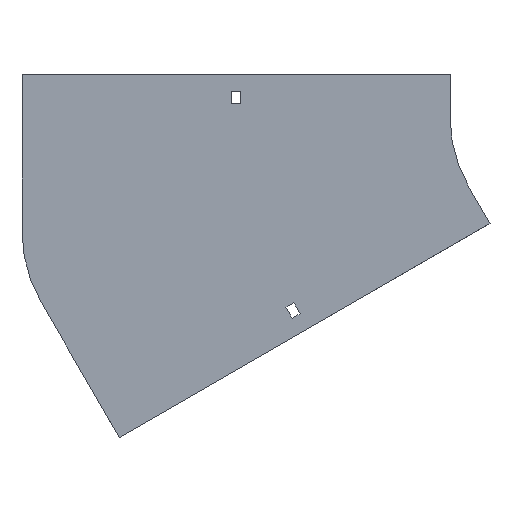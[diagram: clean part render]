
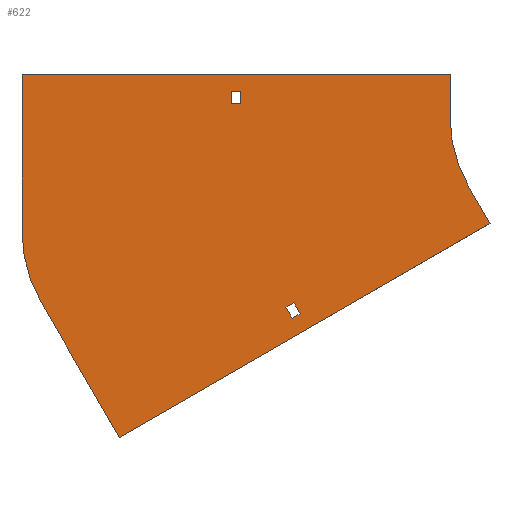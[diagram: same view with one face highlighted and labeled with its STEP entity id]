
A CAD part, front view. The second image highlights one B-rep face of the part: STEP entity #622.
In plain terms, the highlighted planar face has unit normal (0, -1, 0).
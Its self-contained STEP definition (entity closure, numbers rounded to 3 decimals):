
#1 = EDGE_CURVE ( 'NONE', #1149, #1191, #274, .T. ) ;
#7 = ORIENTED_EDGE ( 'NONE', *, *, #1848, .F. ) ;
#41 = ORIENTED_EDGE ( 'NONE', *, *, #1023, .F. ) ;
#47 = CARTESIAN_POINT ( 'NONE',  ( -212.053, 0., -143.213 ) ) ;
#95 = AXIS2_PLACEMENT_3D ( 'NONE', #1756, #400, #554 ) ;
#100 = ORIENTED_EDGE ( 'NONE', *, *, #298, .F. ) ;
#123 = LINE ( 'NONE', #894, #1011 ) ;
#127 = ORIENTED_EDGE ( 'NONE', *, *, #394, .F. ) ;
#184 = LINE ( 'NONE', #1377, #1581 ) ;
#202 = ORIENTED_EDGE ( 'NONE', *, *, #1161, .F. ) ;
#236 = CARTESIAN_POINT ( 'NONE',  ( -216.553, 0., -135.419 ) ) ;
#238 = VERTEX_POINT ( 'NONE', #1527 ) ;
#243 = VERTEX_POINT ( 'NONE', #639 ) ;
#274 = CIRCLE ( 'NONE', #1301, 100. ) ;
#298 = EDGE_CURVE ( 'NONE', #1114, #908, #509, .T. ) ;
#302 = CARTESIAN_POINT ( 'NONE',  ( -86.603, 0., -50. ) ) ;
#304 = DIRECTION ( 'NONE',  ( 0., 0., -1. ) ) ;
#306 = DIRECTION ( 'NONE',  ( 0., -1., 0. ) ) ;
#308 = CARTESIAN_POINT ( 'NONE',  ( -255.25, 0., 18. ) ) ;
#316 = PLANE ( 'NONE',  #945 ) ;
#328 = DIRECTION ( 'NONE',  ( 0., 0., -1. ) ) ;
#381 = ORIENTED_EDGE ( 'NONE', *, *, #516, .F. ) ;
#394 = EDGE_CURVE ( 'NONE', #908, #1818, #1115, .T. ) ;
#399 = VERTEX_POINT ( 'NONE', #1933 ) ;
#400 = DIRECTION ( 'NONE',  ( 0., 1., 0. ) ) ;
#406 = CIRCLE ( 'NONE', #95, 100. ) ;
#414 = EDGE_LOOP ( 'NONE', ( #1867, #948, #510, #672 ) ) ;
#455 = EDGE_CURVE ( 'NONE', #1229, #1691, #123, .T. ) ;
#457 = DIRECTION ( 'NONE',  ( 0., 0., 1. ) ) ;
#471 = VERTEX_POINT ( 'NONE', #1619 ) ;
#477 = DIRECTION ( 'NONE',  ( -0.5, 0., 0.866 ) ) ;
#509 = LINE ( 'NONE', #1857, #1833 ) ;
#510 = ORIENTED_EDGE ( 'NONE', *, *, #1543, .T. ) ;
#516 = EDGE_CURVE ( 'NONE', #825, #1779, #556, .T. ) ;
#543 = LINE ( 'NONE', #1753, #1816 ) ;
#554 = DIRECTION ( 'NONE',  ( 0., 0., 1. ) ) ;
#556 = LINE ( 'NONE', #1165, #694 ) ;
#575 = CARTESIAN_POINT ( 'NONE',  ( 0., 0., 0. ) ) ;
#577 = DIRECTION ( 'NONE',  ( -1., 0., 0. ) ) ;
#608 = DIRECTION ( 'NONE',  ( 0., 0., -1. ) ) ;
#618 = FACE_OUTER_BOUND ( 'NONE', #1325, .T. ) ;
#622 = ADVANCED_FACE ( 'NONE', ( #1661, #618, #930 ), #316, .T. ) ;
#626 = CARTESIAN_POINT ( 'NONE',  ( -404., 0., -81.457 ) ) ;
#639 = CARTESIAN_POINT ( 'NONE',  ( -255.25, 0., 18. ) ) ;
#645 = EDGE_CURVE ( 'NONE', #1818, #238, #184, .T. ) ;
#672 = ORIENTED_EDGE ( 'NONE', *, *, #1810, .T. ) ;
#694 = VECTOR ( 'NONE', #1767, 1000. ) ;
#695 = LINE ( 'NONE', #308, #1685 ) ;
#751 = LINE ( 'NONE', #302, #1258 ) ;
#762 = LINE ( 'NONE', #1051, #1480 ) ;
#780 = VECTOR ( 'NONE', #477, 1000. ) ;
#782 = CARTESIAN_POINT ( 'NONE',  ( -404., 0., 30. ) ) ;
#793 = ORIENTED_EDGE ( 'NONE', *, *, #1223, .F. ) ;
#797 = CARTESIAN_POINT ( 'NONE',  ( -404., 0., -81.457 ) ) ;
#823 = LINE ( 'NONE', #1585, #1352 ) ;
#825 = VERTEX_POINT ( 'NONE', #871 ) ;
#847 = ORIENTED_EDGE ( 'NONE', *, *, #1, .F. ) ;
#852 = EDGE_CURVE ( 'NONE', #399, #1869, #406, .T. ) ;
#859 = DIRECTION ( 'NONE',  ( 1., 0., 0. ) ) ;
#871 = CARTESIAN_POINT ( 'NONE',  ( -71.603, 0., -75.981 ) ) ;
#894 = CARTESIAN_POINT ( 'NONE',  ( -404., 0., 30. ) ) ;
#900 = DIRECTION ( 'NONE',  ( 0.5, 0., -0.866 ) ) ;
#908 = VERTEX_POINT ( 'NONE', #1648 ) ;
#919 = CARTESIAN_POINT ( 'NONE',  ( -248.75, 0., 9. ) ) ;
#926 = EDGE_CURVE ( 'NONE', #1191, #825, #751, .T. ) ;
#930 = FACE_BOUND ( 'NONE', #1084, .T. ) ;
#945 = AXIS2_PLACEMENT_3D ( 'NONE', #1053, #306, #608 ) ;
#948 = ORIENTED_EDGE ( 'NONE', *, *, #1800, .T. ) ;
#961 = VECTOR ( 'NONE', #328, 1000. ) ;
#968 = LINE ( 'NONE', #236, #1008 ) ;
#995 = VERTEX_POINT ( 'NONE', #919 ) ;
#1008 = VECTOR ( 'NONE', #1712, 1000. ) ;
#1011 = VECTOR ( 'NONE', #859, 1000. ) ;
#1023 = EDGE_CURVE ( 'NONE', #238, #1114, #968, .T. ) ;
#1037 = CARTESIAN_POINT ( 'NONE',  ( -210.924, 0., -132.169 ) ) ;
#1051 = CARTESIAN_POINT ( 'NONE',  ( -248.75, 0., 9. ) ) ;
#1053 = CARTESIAN_POINT ( 'NONE',  ( 0., 0., 0. ) ) ;
#1058 = EDGE_CURVE ( 'NONE', #1135, #243, #823, .T. ) ;
#1072 = DIRECTION ( 'NONE',  ( -0.866, 0., -0.5 ) ) ;
#1084 = EDGE_LOOP ( 'NONE', ( #100, #41, #1605, #127 ) ) ;
#1114 = VERTEX_POINT ( 'NONE', #47 ) ;
#1115 = LINE ( 'NONE', #1601, #1896 ) ;
#1135 = VERTEX_POINT ( 'NONE', #1565 ) ;
#1149 = VERTEX_POINT ( 'NONE', #1744 ) ;
#1161 = EDGE_CURVE ( 'NONE', #1869, #1229, #1205, .T. ) ;
#1165 = CARTESIAN_POINT ( 'NONE',  ( -71.603, 0., -75.981 ) ) ;
#1178 = DIRECTION ( 'NONE',  ( 0., 0., -1. ) ) ;
#1191 = VERTEX_POINT ( 'NONE', #1680 ) ;
#1205 = LINE ( 'NONE', #626, #1539 ) ;
#1223 = EDGE_CURVE ( 'NONE', #1779, #399, #1642, .T. ) ;
#1229 = VERTEX_POINT ( 'NONE', #782 ) ;
#1258 = VECTOR ( 'NONE', #900, 1000. ) ;
#1283 = DIRECTION ( 'NONE',  ( 0.866, 0., 0.5 ) ) ;
#1296 = DIRECTION ( 'NONE',  ( 1., 0., 0. ) ) ;
#1301 = AXIS2_PLACEMENT_3D ( 'NONE', #575, #1797, #1178 ) ;
#1325 = EDGE_LOOP ( 'NONE', ( #1399, #202, #1602, #793, #381, #1482, #847, #7 ) ) ;
#1352 = VECTOR ( 'NONE', #1852, 1000. ) ;
#1377 = CARTESIAN_POINT ( 'NONE',  ( -216.553, 0., -135.419 ) ) ;
#1392 = CARTESIAN_POINT ( 'NONE',  ( -100., 0., 30. ) ) ;
#1399 = ORIENTED_EDGE ( 'NONE', *, *, #455, .F. ) ;
#1416 = CARTESIAN_POINT ( 'NONE',  ( -100., 0., 30. ) ) ;
#1480 = VECTOR ( 'NONE', #304, 1000. ) ;
#1482 = ORIENTED_EDGE ( 'NONE', *, *, #926, .F. ) ;
#1510 = CARTESIAN_POINT ( 'NONE',  ( -334.874, 0., -227.981 ) ) ;
#1527 = CARTESIAN_POINT ( 'NONE',  ( -216.553, 0., -135.419 ) ) ;
#1539 = VECTOR ( 'NONE', #457, 1000. ) ;
#1543 = EDGE_CURVE ( 'NONE', #471, #995, #762, .T. ) ;
#1565 = CARTESIAN_POINT ( 'NONE',  ( -255.25, 0., 9. ) ) ;
#1581 = VECTOR ( 'NONE', #1072, 1000. ) ;
#1585 = CARTESIAN_POINT ( 'NONE',  ( -255.25, 0., 9. ) ) ;
#1601 = CARTESIAN_POINT ( 'NONE',  ( -210.924, 0., -132.169 ) ) ;
#1602 = ORIENTED_EDGE ( 'NONE', *, *, #852, .F. ) ;
#1605 = ORIENTED_EDGE ( 'NONE', *, *, #645, .F. ) ;
#1619 = CARTESIAN_POINT ( 'NONE',  ( -248.75, 0., 18. ) ) ;
#1642 = LINE ( 'NONE', #1659, #780 ) ;
#1648 = CARTESIAN_POINT ( 'NONE',  ( -206.424, 0., -139.963 ) ) ;
#1659 = CARTESIAN_POINT ( 'NONE',  ( -334.874, 0., -227.981 ) ) ;
#1661 = FACE_BOUND ( 'NONE', #414, .T. ) ;
#1665 = LINE ( 'NONE', #1392, #961 ) ;
#1680 = CARTESIAN_POINT ( 'NONE',  ( -86.603, 0., -50. ) ) ;
#1685 = VECTOR ( 'NONE', #1296, 1000. ) ;
#1691 = VERTEX_POINT ( 'NONE', #1416 ) ;
#1712 = DIRECTION ( 'NONE',  ( 0.5, 0., -0.866 ) ) ;
#1727 = DIRECTION ( 'NONE',  ( -0.5, 0., 0.866 ) ) ;
#1744 = CARTESIAN_POINT ( 'NONE',  ( -100., 0., 0. ) ) ;
#1753 = CARTESIAN_POINT ( 'NONE',  ( -255.25, 0., 9. ) ) ;
#1756 = CARTESIAN_POINT ( 'NONE',  ( -304., 0., -81.457 ) ) ;
#1767 = DIRECTION ( 'NONE',  ( -0.866, 0., -0.5 ) ) ;
#1779 = VERTEX_POINT ( 'NONE', #1510 ) ;
#1797 = DIRECTION ( 'NONE',  ( 0., -1., 0. ) ) ;
#1800 = EDGE_CURVE ( 'NONE', #243, #471, #695, .T. ) ;
#1810 = EDGE_CURVE ( 'NONE', #995, #1135, #543, .T. ) ;
#1816 = VECTOR ( 'NONE', #577, 1000. ) ;
#1818 = VERTEX_POINT ( 'NONE', #1037 ) ;
#1833 = VECTOR ( 'NONE', #1283, 1000. ) ;
#1848 = EDGE_CURVE ( 'NONE', #1691, #1149, #1665, .T. ) ;
#1852 = DIRECTION ( 'NONE',  ( 0., 0., 1. ) ) ;
#1857 = CARTESIAN_POINT ( 'NONE',  ( -212.053, 0., -143.213 ) ) ;
#1867 = ORIENTED_EDGE ( 'NONE', *, *, #1058, .T. ) ;
#1869 = VERTEX_POINT ( 'NONE', #797 ) ;
#1896 = VECTOR ( 'NONE', #1727, 1000. ) ;
#1933 = CARTESIAN_POINT ( 'NONE',  ( -390.603, 0., -131.457 ) ) ;
